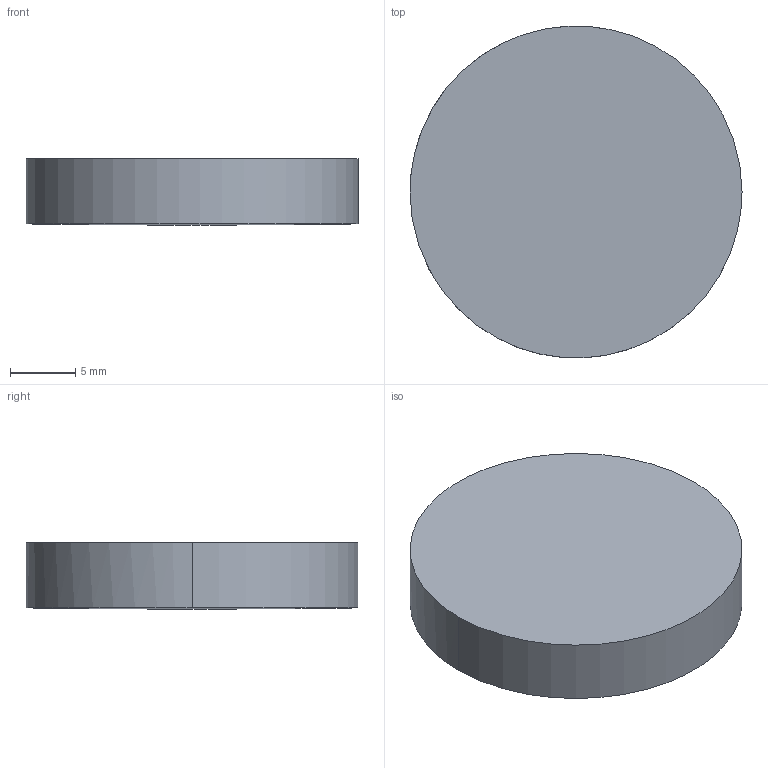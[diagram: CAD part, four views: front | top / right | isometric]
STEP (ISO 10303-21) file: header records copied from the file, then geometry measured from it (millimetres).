
FILE_DESCRIPTION ((), '1');
FILE_NAME ('\\fileserver\Daten\Applikationen\Optikdesign\SPA-Design\aktuelle SPA-Designs\Linsenkataloge - 2016-Juni\Zemax\XFL\XFL25-005.STP', '2016-05-24T14:28:27', ('Unknown'), ('Unknown'), 'HarmonyWare STEP v2.0.1', 'HarmonyWare Translators', '');
FILE_SCHEMA (('CONFIG_CONTROL_DESIGN'));
Length unit declared in the file: millimetre
Products named in the file (1): NONE
Bounding box: 25.4 x 25.39 x 5.11 mm (x, y, z)
Volume: 2553.2 mm3; surface area: 1413.2 mm2
Topology: 1 solids, 1 shells, 4 faces, 9 edges, 6 vertices
Faces by surface type: cylinder 2, bspline 1, plane 1
Entity records: 265 total; most frequent: CARTESIAN_POINT 114, ORIENTED_EDGE 16, EDGE_CURVE 8, PERSON 8, ORGANIZATION 8, PERSON_AND_ORGANIZATION 8, VERTEX_POINT 6, DIRECTION 6
